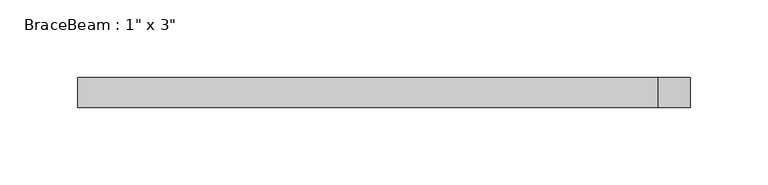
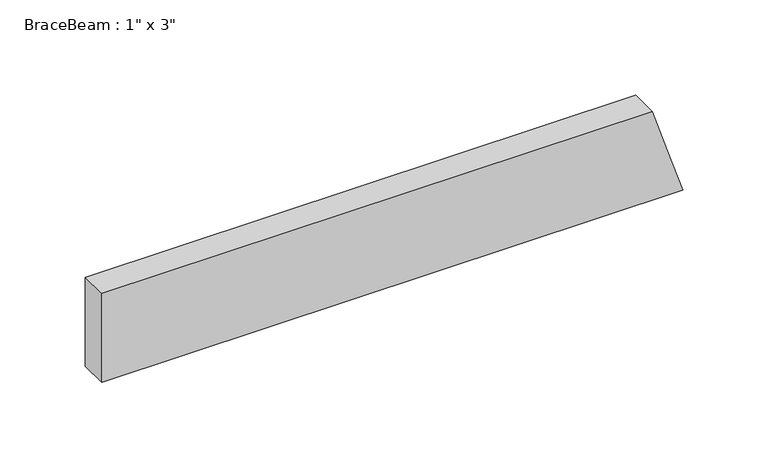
"""IFC4 building model written with IfcOpenShell, lengths in millimetres: beam geometry."""

from ifc_helpers import new_model, si_unit, origin, place, context, project, spatial, faceted_brep, source, transform, mapped, element, save


def beam_1a415509(model_context):
    return source(origin(), model_context, "Body", "Brep", [
        faceted_brep([(-192.177458, 9.525, -31.75), (200.8919355, 9.525, -31.75), (200.8919355, -9.525, -31.75), (-192.177458, -9.525, -31.75), (190.5290882, -9.525, 0.0), (180.166241, -9.525, 31.75), (-192.177458, -9.525, 31.75), (180.166241, 9.525, 31.75), (-192.177458, 9.525, 31.75), (190.5290882, 9.525, 0.0)], [[[0, 1, 2, 3]], [[3, 2, 4, 5, 6]], [[6, 5, 7, 8]], [[8, 7, 9, 1, 0]], [[8, 0, 3, 6]], [[5, 4, 2, 1, 9, 7]]]),
    ])


if __name__ == "__main__":
    model = new_model("IFC4")
    model_context = context("Model", 3, world=origin())
    ifc_project = project(units=[si_unit("LENGTHUNIT", "METRE", prefix="MILLI")], contexts=[model_context])
    site = spatial("IfcSite", under=ifc_project)
    building = spatial("IfcBuilding", under=site)
    placement = place(None, origin())
    beam_shape = beam_1a415509(model_context)
    element("IfcBeam", 1, ObjectType="BraceBeam : 1\" x 3\"", at=placement, inside=building, context=model_context, shape_type="MappedRepresentation", body=[
        mapped(beam_shape, transform((0.0, 0.0, 0.0), x_axis=(1.0, 0.0, 0.0), y_axis=(0.0, 1.0, 0.0), z_axis=(0.0, 0.0, 1.0))),
    ])
    save(model, "model.ifc")
